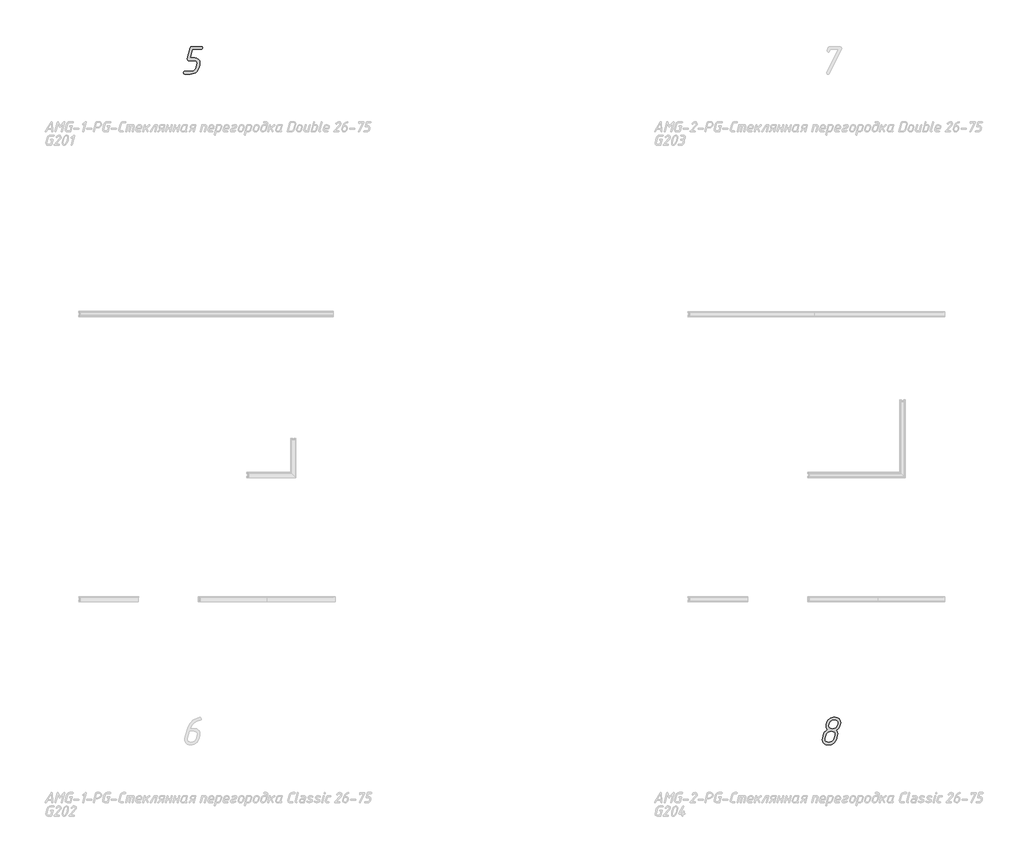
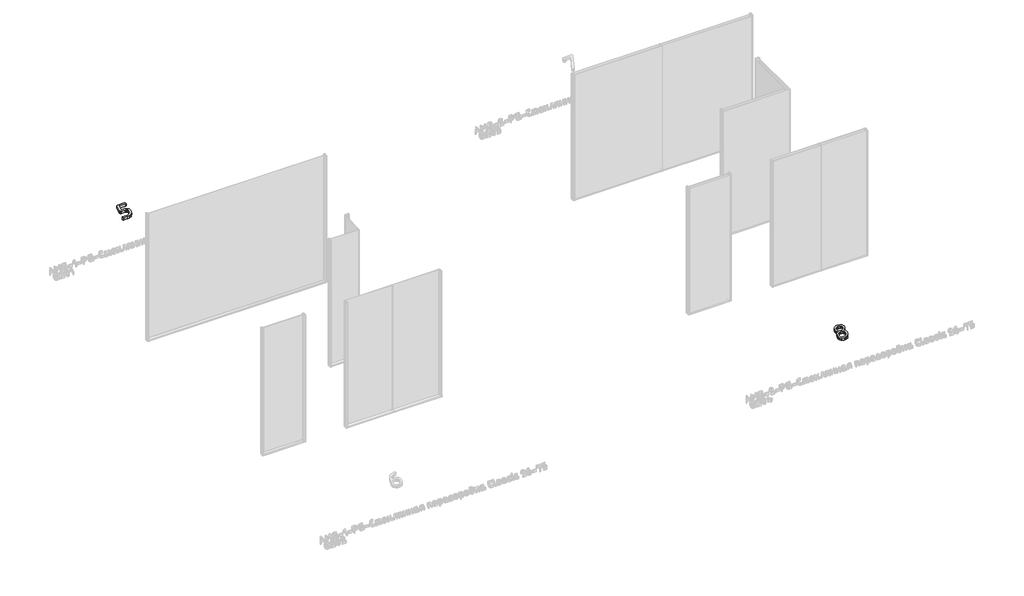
# One storey, part 12 of 22: 2 proxies.
"""IFC4 building model written with IfcOpenShell, lengths in millimetres."""

from ifc_helpers import new_model, si_unit, origin, origin_with_axes, place, context, project, spatial, polyline, outline, extrude, element, save

model = new_model("IFC4")

# Units and contexts
model_context = context("Model", 3, world=origin())
ifc_project = project(units=[si_unit("LENGTHUNIT", "METRE", prefix="MILLI")], contexts=[model_context])

# Site, building, storey
site = spatial("IfcSite", under=ifc_project)
building = spatial("IfcBuilding", under=site)
storey = spatial("IfcBuildingStorey", under=building, Name="Уровень 1", Elevation=0.0)

# Proxies
placement = place(None, origin())
element("IfcBuildingElementProxy", 1, Name="100", ObjectType="100", at=placement, inside=storey, context=model_context, shape_type="SweptSolid", body=[
    extrude(outline(polyline([(-34130.090113, -24888.1249905), (-34207.4364146, -24888.1249905), (-34216.1525224, -24886.8465392), (-34222.3783138, -24883.0111854), (-34227.3589468, -24867.6697702), (-34222.3783138, -24852.3283551), (-34216.1525224, -24848.4930013), (-34207.4364146, -24847.21455), (-34119.54289, -24847.21455), (-34091.3437176, -24843.5390026), (-34068.8576242, -24832.5123604), (-34052.0846099, -24814.1346235), (-34041.0246747, -24788.4057917), (-34030.157839, -24749.1999529), (-34026.7486356, -24727.2532061), (-34029.858202, -24711.1260761), (-34039.186901, -24699.6066975), (-34054.7347329, -24692.6950704), (-34076.5016974, -24690.3911946), (-34153.7414614, -24690.3911946), (-34161.3722174, -24688.8463994), (-34167.8576941, -24684.2120135), (-34173.7705312, -24669.9359744), (-34173.1313056, -24664.7156317), (-34130.4097258, -24501.2869448), (-34123.591319, -24489.7009802), (-34111.0198816, -24485.838992), (-33966.2352757, -24485.838992), (-33957.4725576, -24487.1174433), (-33951.2134733, -24490.9527971), (-33946.2062058, -24506.2942123), (-33951.2134733, -24521.6356275), (-33957.4725576, -24525.4709813), (-33966.2352757, -24526.7494325), (-34095.5719288, -24526.7494325), (-34127.7462856, -24649.4807541), (-34065.528324, -24649.4807541), (-34033.8333864, -24654.8609032), (-34008.4241674, -24671.0013504), (-33998.6826351, -24682.587315), (-33991.7243978, -24695.8246125), (-33986.1578079, -24727.2532061), (-33988.9277856, -24748.8803401), (-33999.7946214, -24788.7254045), (-34011.2940242, -24820.506904), (-34026.4023884, -24845.9627331), (-34045.119714, -24865.0928919), (-34067.4460009, -24877.8973804), (-34095.51866, -24885.568088), (-34130.090113, -24888.1249905)])), origin_with_axes(), (0.0, 0.0, 1.0), 50.0),
])
element("IfcBuildingElementProxy", 2, Name="100", ObjectType="100", at=placement, inside=storey, context=model_context, shape_type="SweptSolid", body=[
    extrude(outline(polyline([(-24690.6415974, -34475.4759299), (-24675.3800854, -34498.9408375), (-24670.2929147, -34527.7858942), (-24673.0628925, -34549.4130281), (-24683.9297282, -34589.0450174), (-24692.3595163, -34613.8249985), (-24702.7336156, -34634.7896017), (-24715.0520262, -34651.9388269), (-24729.3147482, -34665.2726741), (-24746.0544695, -34675.2705625), (-24765.8038781, -34682.4119114), (-24788.5629741, -34686.6967207), (-24814.3317574, -34688.1249905), (-24845.8668886, -34682.5983522), (-24871.435914, -34666.0184374), (-24888.3753933, -34641.1019549), (-24894.0218864, -34610.5656137), (-24891.2519086, -34588.9384798), (-24880.3850728, -34549.1999529), (-24870.0376079, -34519.90877), (-24856.573918, -34496.0643221), (-24839.9940031, -34477.6666094), (-24820.2978633, -34464.7156317), (-24835.3196657, -34439.9722728), (-24840.3269332, -34410.4879905), (-24837.663493, -34388.1150933), (-24818.7397508, -34341.2385469), (-24806.5112313, -34323.5533044), (-24792.4382795, -34309.7034156), (-24775.8883283, -34299.2627303), (-24756.2288108, -34291.8050979), (-24733.4597269, -34287.3305185), (-24707.5810767, -34285.838992), (-24676.0459454, -34291.4188991), (-24650.4769201, -34308.1586204), (-24640.5955572, -34320.1274545), (-24633.5374408, -34333.7143285), (-24627.8909477, -34365.7421962), (-24630.6609255, -34388.1150933), (-24641.2014898, -34418.0654777), (-24654.7117899, -34442.6090785), (-24671.1918258, -34461.7458959), (-24690.6415974, -34475.4759299)]), holes=[polyline([(-24760.3171914, -34490.3911946), (-24788.5163639, -34494.066742), (-24811.0024572, -34505.0933842), (-24827.7754715, -34523.4711212), (-24838.8354067, -34549.1999529), (-24849.7022424, -34588.4057917), (-24853.1114458, -34610.3525385), (-24850.0018795, -34626.4796685), (-24840.6731804, -34637.9990471), (-24825.1253486, -34644.9106743), (-24803.358384, -34647.21455), (-24775.4388728, -34643.5390026), (-24753.1525374, -34632.5123604), (-24736.499378, -34614.1346235), (-24725.4793944, -34588.4057917), (-24714.6125586, -34549.1999529), (-24711.2033552, -34527.2532061), (-24714.27297, -34511.1260761), (-24723.4818143, -34499.6066975), (-24738.8298881, -34492.6950704), (-24760.3171914, -34490.3911946)]), polyline([(-24718.55445, -34326.7494325), (-24746.6936951, -34330.5847863), (-24769.0000063, -34342.0908477), (-24785.4733835, -34361.2676167), (-24796.1138269, -34388.1150933), (-24799.4164926, -34411.0206785), (-24796.3468779, -34427.8469616), (-24787.1380336, -34439.8657352), (-24771.7899598, -34447.0769994), (-24750.3026565, -34449.4807541), (-24721.9237018, -34445.6454003), (-24699.4309498, -34434.1393389), (-24682.8244006, -34414.9625699), (-24672.104054, -34388.1150933), (-24668.8013882, -34365.2095081), (-24671.9109546, -34348.3832251), (-24681.2396537, -34336.3644514), (-24696.7874855, -34329.1531873), (-24718.55445, -34326.7494325)])]), origin_with_axes(), (0.0, 0.0, 1.0), 50.0),
])

save(model, "model.ifc")
